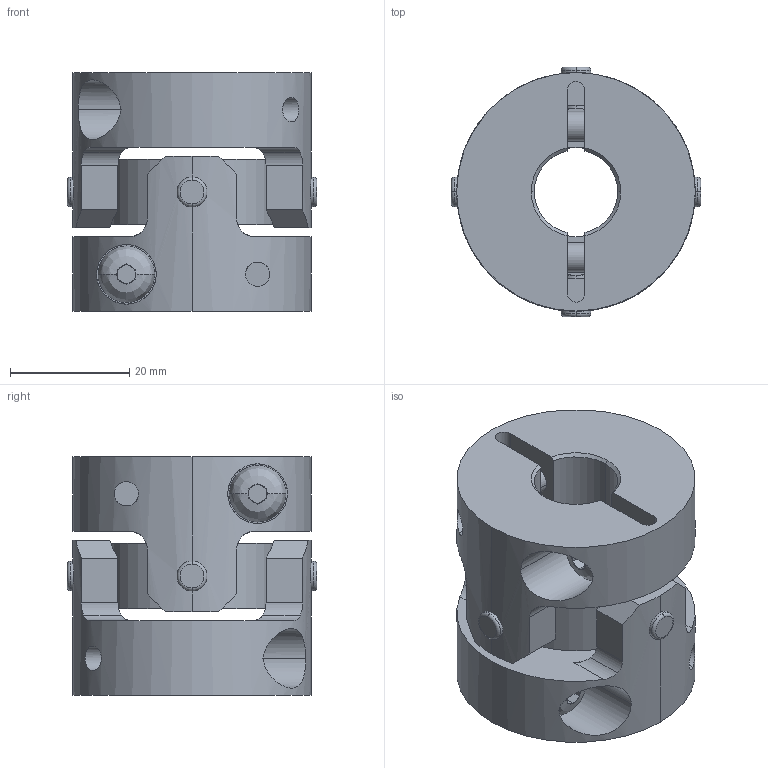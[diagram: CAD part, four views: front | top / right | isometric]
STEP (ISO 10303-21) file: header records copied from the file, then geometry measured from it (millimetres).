
FILE_DESCRIPTION((''),'2;1');
FILE_NAME('UA-40C-14×15.stp','2013-05-22T09:29:56',(''),(''),'AutoCAD STEP 2000i','AutoCAD 2000i',', , ');
FILE_SCHEMA(('CONFIG_CONTROL_DESIGN'));
Length unit declared in the file: millimetre
Products named in the file (6): UA-40C-8×8; 忣兜1; UA-4002-D08-1; BTN-M5; UA-4002-D08; UA40-SEN
Assembly tree (6 placements, depth 3):
  UA-40C-8×8
    忣兜1
    UA-4002-D08-1
      BTN-M5
    UA-4002-D08
      BTN-M5
    UA40-SEN
Bounding box: 41.81 x 41.81 x 40 mm (x, y, z)
Volume: 32825.9 mm3; surface area: 15466.4 mm2
Topology: 1 solids, 1 shells, 250 faces, 646 edges, 408 vertices
Faces by surface type: plane 122, cylinder 96, cone 16, bspline 8, torus 8
Entity records: 9627 total; most frequent: CARTESIAN_POINT 3371, ORIENTED_EDGE 1292, DIRECTION 1288, EDGE_CURVE 646, AXIS2_PLACEMENT_3D 497, VERTEX_POINT 408, VECTOR 294, LINE 294
